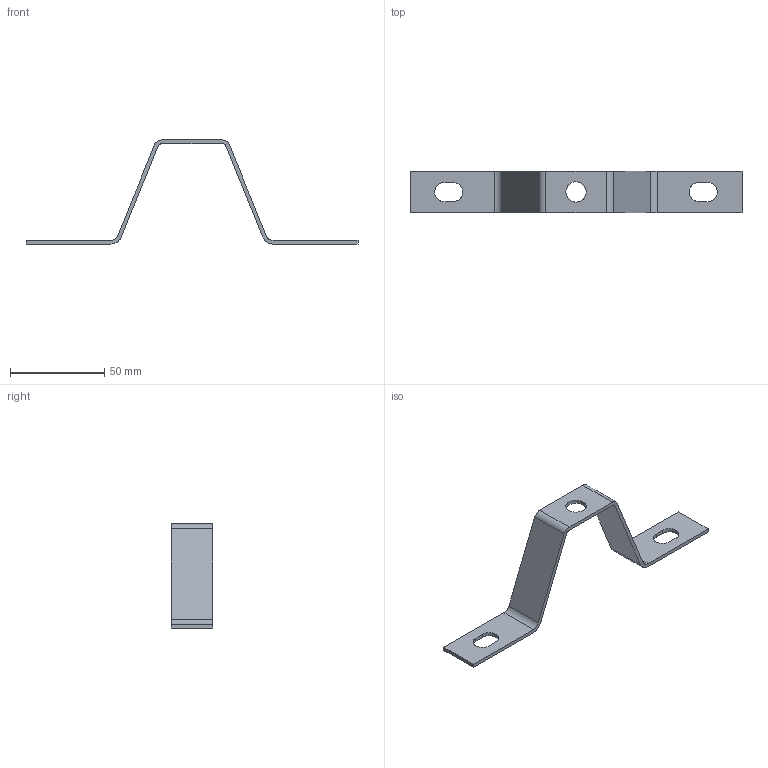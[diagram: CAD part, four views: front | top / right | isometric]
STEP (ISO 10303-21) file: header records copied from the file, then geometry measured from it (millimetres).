
FILE_DESCRIPTION(/* description */ (''),/* implementation_level */ '2;1');
FILE_NAME(/* name */ 'DZM14',/* time_stamp */ '2025-03-13T20:14:24+01:00',/* author */ (''),/* organization */ (''),/* preprocessor_version */ 'ST-DEVELOPER v16.5',/* originating_system */ '',/* authorisation */ '');
FILE_SCHEMA (('CONFIG_CONTROL_DESIGN'));
Length unit declared in the file: millimetre
Products named in the file (1): Document
Bounding box: 175.94 x 22 x 55.15 mm (x, y, z)
Volume: 10097.4 mm3; surface area: 11387.3 mm2
Topology: 1 solids, 1 shells, 31 faces, 87 edges, 58 vertices
Faces by surface type: plane 18, cylinder 9, bspline 4
Full cylindrical faces by diameter (mm): 10.8 x1
Entity records: 1177 total; most frequent: CARTESIAN_POINT 571, ORIENTED_EDGE 174, EDGE_CURVE 87, VERTEX_POINT 58, EDGE_LOOP 37, ADVANCED_FACE 31, FACE_OUTER_BOUND 31, DIRECTION 31
